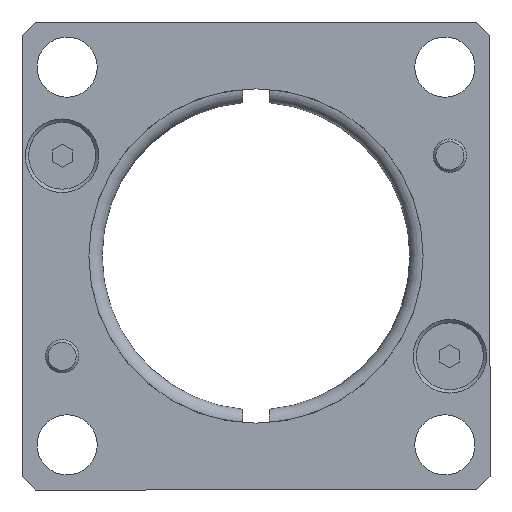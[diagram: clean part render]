
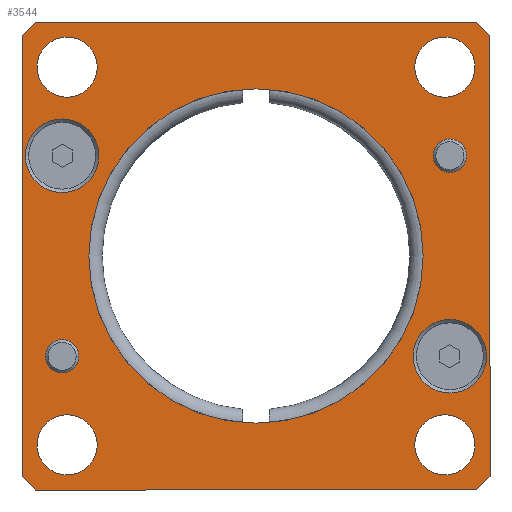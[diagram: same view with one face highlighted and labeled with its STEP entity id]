
A CAD part, front view. The second image highlights one B-rep face of the part: STEP entity #3544.
In plain terms, the highlighted planar face has unit normal (0, -1, 0) as drawn and (0, 0, -1) by its records, which use the part's own axes.
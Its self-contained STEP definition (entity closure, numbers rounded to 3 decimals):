
#340=FACE_BOUND('',#671,.T.);
#341=FACE_BOUND('',#672,.T.);
#342=FACE_BOUND('',#673,.T.);
#343=FACE_BOUND('',#674,.T.);
#344=FACE_BOUND('',#675,.T.);
#345=FACE_BOUND('',#676,.T.);
#346=FACE_BOUND('',#677,.T.);
#347=FACE_BOUND('',#678,.T.);
#348=FACE_BOUND('',#679,.T.);
#376=PLANE('',#3823);
#468=FACE_OUTER_BOUND('',#670,.T.);
#670=EDGE_LOOP('',(#2467,#2468,#2469,#2470,#2471,#2472,#2473,#2474));
#671=EDGE_LOOP('',(#2475));
#672=EDGE_LOOP('',(#2476));
#673=EDGE_LOOP('',(#2477));
#674=EDGE_LOOP('',(#2478));
#675=EDGE_LOOP('',(#2479));
#676=EDGE_LOOP('',(#2480));
#677=EDGE_LOOP('',(#2481));
#678=EDGE_LOOP('',(#2482));
#679=EDGE_LOOP('',(#2483));
#908=LINE('',#4617,#1219);
#909=LINE('',#4619,#1220);
#910=LINE('',#4621,#1221);
#911=LINE('',#4623,#1222);
#912=LINE('',#4625,#1223);
#913=LINE('',#4627,#1224);
#914=LINE('',#4629,#1225);
#915=LINE('',#4630,#1226);
#1219=VECTOR('',#3990,10.);
#1220=VECTOR('',#3991,10.);
#1221=VECTOR('',#3992,10.);
#1222=VECTOR('',#3993,10.);
#1223=VECTOR('',#3994,10.);
#1224=VECTOR('',#3995,10.);
#1225=VECTOR('',#3996,10.);
#1226=VECTOR('',#3997,10.);
#1529=CIRCLE('',#3821,5.5);
#1531=CIRCLE('',#3824,5.5);
#1532=CIRCLE('',#3825,2.5);
#1533=CIRCLE('',#3826,2.5);
#1534=CIRCLE('',#3827,25.);
#1535=CIRCLE('',#3828,4.5);
#1536=CIRCLE('',#3829,4.5);
#1537=CIRCLE('',#3830,4.5);
#1538=CIRCLE('',#3831,4.5);
#1569=VERTEX_POINT('',#4609);
#1571=VERTEX_POINT('',#4615);
#1572=VERTEX_POINT('',#4616);
#1573=VERTEX_POINT('',#4618);
#1574=VERTEX_POINT('',#4620);
#1575=VERTEX_POINT('',#4622);
#1576=VERTEX_POINT('',#4624);
#1577=VERTEX_POINT('',#4626);
#1578=VERTEX_POINT('',#4628);
#1579=VERTEX_POINT('',#4631);
#1580=VERTEX_POINT('',#4633);
#1581=VERTEX_POINT('',#4635);
#1582=VERTEX_POINT('',#4637);
#1583=VERTEX_POINT('',#4639);
#1584=VERTEX_POINT('',#4641);
#1585=VERTEX_POINT('',#4643);
#1586=VERTEX_POINT('',#4645);
#1926=EDGE_CURVE('',#1569,#1569,#1529,.T.);
#1929=EDGE_CURVE('',#1571,#1572,#908,.T.);
#1930=EDGE_CURVE('',#1573,#1571,#909,.T.);
#1931=EDGE_CURVE('',#1574,#1573,#910,.T.);
#1932=EDGE_CURVE('',#1575,#1574,#911,.T.);
#1933=EDGE_CURVE('',#1576,#1575,#912,.T.);
#1934=EDGE_CURVE('',#1577,#1576,#913,.T.);
#1935=EDGE_CURVE('',#1578,#1577,#914,.T.);
#1936=EDGE_CURVE('',#1572,#1578,#915,.T.);
#1937=EDGE_CURVE('',#1579,#1579,#1531,.T.);
#1938=EDGE_CURVE('',#1580,#1580,#1532,.T.);
#1939=EDGE_CURVE('',#1581,#1581,#1533,.T.);
#1940=EDGE_CURVE('',#1582,#1582,#1534,.T.);
#1941=EDGE_CURVE('',#1583,#1583,#1535,.T.);
#1942=EDGE_CURVE('',#1584,#1584,#1536,.T.);
#1943=EDGE_CURVE('',#1585,#1585,#1537,.T.);
#1944=EDGE_CURVE('',#1586,#1586,#1538,.T.);
#2467=ORIENTED_EDGE('',*,*,#1929,.F.);
#2468=ORIENTED_EDGE('',*,*,#1930,.F.);
#2469=ORIENTED_EDGE('',*,*,#1931,.F.);
#2470=ORIENTED_EDGE('',*,*,#1932,.F.);
#2471=ORIENTED_EDGE('',*,*,#1933,.F.);
#2472=ORIENTED_EDGE('',*,*,#1934,.F.);
#2473=ORIENTED_EDGE('',*,*,#1935,.F.);
#2474=ORIENTED_EDGE('',*,*,#1936,.F.);
#2475=ORIENTED_EDGE('',*,*,#1937,.F.);
#2476=ORIENTED_EDGE('',*,*,#1938,.T.);
#2477=ORIENTED_EDGE('',*,*,#1939,.T.);
#2478=ORIENTED_EDGE('',*,*,#1940,.T.);
#2479=ORIENTED_EDGE('',*,*,#1941,.T.);
#2480=ORIENTED_EDGE('',*,*,#1942,.T.);
#2481=ORIENTED_EDGE('',*,*,#1943,.T.);
#2482=ORIENTED_EDGE('',*,*,#1944,.T.);
#2483=ORIENTED_EDGE('',*,*,#1926,.F.);
#3544=ADVANCED_FACE('',(#468,#340,#341,#342,#343,#344,#345,#346,#347,#348),
#376,.F.);
#3821=AXIS2_PLACEMENT_3D('',#4610,#3983,#3984);
#3823=AXIS2_PLACEMENT_3D('',#4614,#3988,#3989);
#3824=AXIS2_PLACEMENT_3D('',#4632,#3998,#3999);
#3825=AXIS2_PLACEMENT_3D('',#4634,#4000,#4001);
#3826=AXIS2_PLACEMENT_3D('',#4636,#4002,#4003);
#3827=AXIS2_PLACEMENT_3D('',#4638,#4004,#4005);
#3828=AXIS2_PLACEMENT_3D('',#4640,#4006,#4007);
#3829=AXIS2_PLACEMENT_3D('',#4642,#4008,#4009);
#3830=AXIS2_PLACEMENT_3D('',#4644,#4010,#4011);
#3831=AXIS2_PLACEMENT_3D('',#4646,#4012,#4013);
#3983=DIRECTION('center_axis',(0.,0.,-1.));
#3984=DIRECTION('ref_axis',(1.,0.,0.));
#3988=DIRECTION('center_axis',(0.,0.,1.));
#3989=DIRECTION('ref_axis',(1.,0.,0.));
#3990=DIRECTION('',(0.707,0.707,0.));
#3991=DIRECTION('',(1.,0.,0.));
#3992=DIRECTION('',(0.707,-0.707,0.));
#3993=DIRECTION('',(0.,-1.,0.));
#3994=DIRECTION('',(-0.707,-0.707,0.));
#3995=DIRECTION('',(-1.,0.,0.));
#3996=DIRECTION('',(-0.707,0.707,0.));
#3997=DIRECTION('',(0.,1.,0.));
#3998=DIRECTION('center_axis',(0.,0.,-1.));
#3999=DIRECTION('ref_axis',(1.,0.,0.));
#4000=DIRECTION('center_axis',(0.,0.,1.));
#4001=DIRECTION('ref_axis',(1.,0.,0.));
#4002=DIRECTION('center_axis',(0.,0.,1.));
#4003=DIRECTION('ref_axis',(1.,0.,0.));
#4004=DIRECTION('center_axis',(0.,0.,1.));
#4005=DIRECTION('ref_axis',(-1.,0.,0.));
#4006=DIRECTION('center_axis',(0.,0.,1.));
#4007=DIRECTION('ref_axis',(-1.,0.,0.));
#4008=DIRECTION('center_axis',(0.,0.,1.));
#4009=DIRECTION('ref_axis',(-1.,0.,0.));
#4010=DIRECTION('center_axis',(0.,0.,1.));
#4011=DIRECTION('ref_axis',(-1.,0.,0.));
#4012=DIRECTION('center_axis',(0.,0.,1.));
#4013=DIRECTION('ref_axis',(-1.,0.,0.));
#4609=CARTESIAN_POINT('',(23.5,15.,0.));
#4610=CARTESIAN_POINT('Origin',(29.,15.,0.));
#4614=CARTESIAN_POINT('Origin',(0.,0.,
0.));
#4615=CARTESIAN_POINT('',(33.,-35.,0.));
#4616=CARTESIAN_POINT('',(35.,-33.,0.));
#4617=CARTESIAN_POINT('',(34.,-34.,0.));
#4618=CARTESIAN_POINT('',(-33.,-35.,0.));
#4619=CARTESIAN_POINT('',(-35.,-35.,0.));
#4620=CARTESIAN_POINT('',(-35.,-33.,0.));
#4621=CARTESIAN_POINT('',(-34.,-34.,0.));
#4622=CARTESIAN_POINT('',(-35.,33.,0.));
#4623=CARTESIAN_POINT('',(-35.,35.,0.));
#4624=CARTESIAN_POINT('',(-33.,35.,0.));
#4625=CARTESIAN_POINT('',(-34.,34.,0.));
#4626=CARTESIAN_POINT('',(33.,35.,0.));
#4627=CARTESIAN_POINT('',(35.,35.,0.));
#4628=CARTESIAN_POINT('',(35.,33.,0.));
#4629=CARTESIAN_POINT('',(34.,34.,0.));
#4630=CARTESIAN_POINT('',(35.,-35.,0.));
#4631=CARTESIAN_POINT('',(-34.5,-15.,0.));
#4632=CARTESIAN_POINT('Origin',(-29.,-15.,0.));
#4633=CARTESIAN_POINT('',(26.5,-15.,0.));
#4634=CARTESIAN_POINT('Origin',(29.,-15.,0.));
#4635=CARTESIAN_POINT('',(-31.5,15.,0.));
#4636=CARTESIAN_POINT('Origin',(-29.,15.,0.));
#4637=CARTESIAN_POINT('',(25.,0.,0.));
#4638=CARTESIAN_POINT('Origin',(0.,0.,0.));
#4639=CARTESIAN_POINT('',(32.75,-28.25,0.));
#4640=CARTESIAN_POINT('Origin',(28.25,-28.25,0.));
#4641=CARTESIAN_POINT('',(-23.75,-28.25,0.));
#4642=CARTESIAN_POINT('Origin',(-28.25,-28.25,0.));
#4643=CARTESIAN_POINT('',(32.75,28.25,0.));
#4644=CARTESIAN_POINT('Origin',(28.25,28.25,0.));
#4645=CARTESIAN_POINT('',(-23.75,28.25,0.));
#4646=CARTESIAN_POINT('Origin',(-28.25,28.25,0.));
